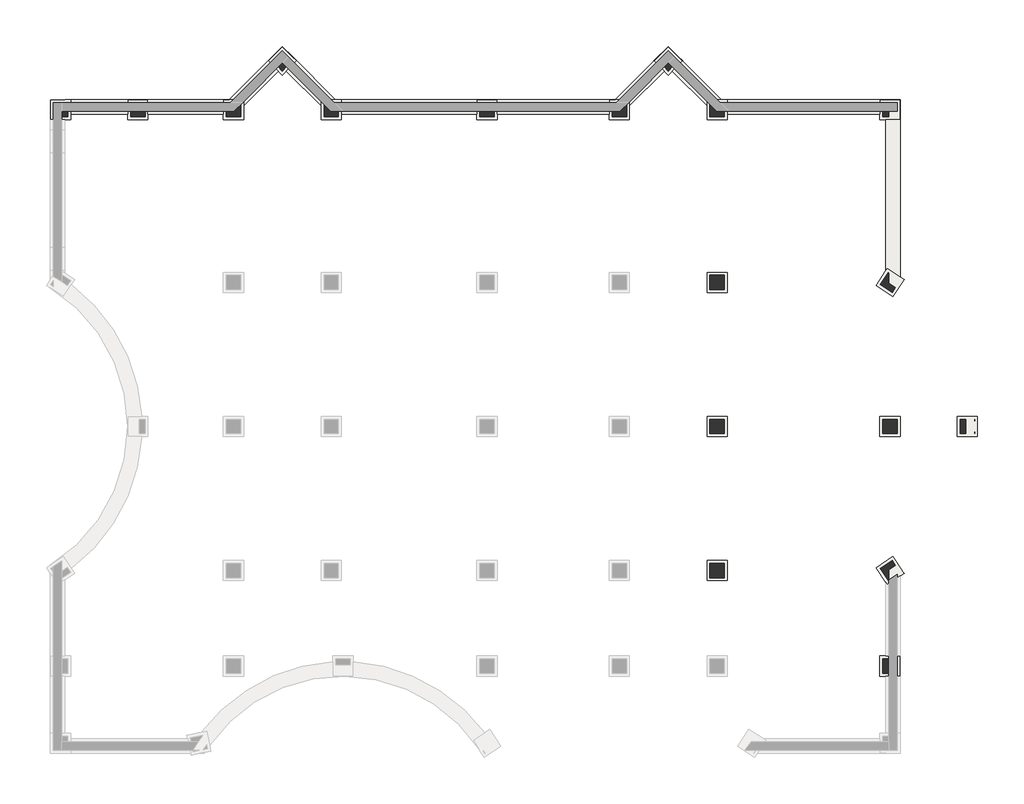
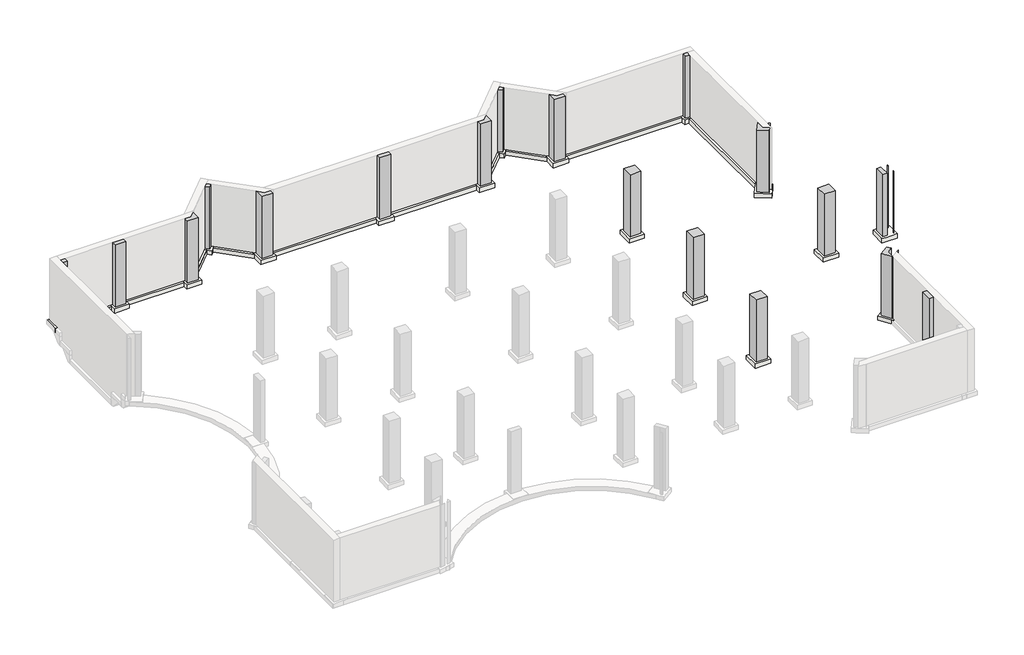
# One storey, part 3 of 3: 18 columns, 18 slabs, 8 footings.
"""IFC4 building model written with IfcOpenShell, lengths in millimetres."""

from ifc_helpers import new_model, si_unit, point, frame, frame_2d, origin, place, context, project, spatial, polyline, circle_curve, trimmed, segment, composite_curve, outline, extrude, faceted_brep, transform, mapped, element, save
from ifc_brep_helpers import plane_surface, cylinder_surface, revolved_surface, advanced_brep
from components import m_concrete_rectangular_column_762_x_762mm_e00174ba, m_footing_rectangular_1067_x_1067_x_305mm_e91fa160

model = new_model("IFC4")

# Units and contexts
model_context = context("Model", 3, world=origin())
ifc_project = project(units=[si_unit("LENGTHUNIT", "METRE", prefix="MILLI")], contexts=[model_context])

# Site, building, storey
site = spatial("IfcSite", under=ifc_project)
building = spatial("IfcBuilding", under=site)
storey = spatial("IfcBuildingStorey", under=building, Name="00 T.O.FOOTING", Elevation=-4572.0)

# Columns
placement = place(None, origin())
element("IfcColumn", 1, ObjectType="M_Concrete-Rectangular-Column : 762 x 762mm", at=placement, inside=storey, context=model_context, shape_type="SweptSolid", body=[
    extrude(outline(polyline([(536.575, 33302.575), (228.5, 33302.575), (228.5, 33610.65), (536.575, 33610.65), (536.575, 33302.575)])), frame((0.0, 0.0, -4572.0), z_axis=(0.0, 0.0, 1.0), x_axis=(1.0, 0.0, 0.0)), (0.0, 0.0, 1.0), 4572.0),
])
element("IfcColumn", 2, ObjectType="M_Concrete-Rectangular-Column : 762 x 762mm", at=placement, inside=storey, context=model_context, shape_type="SweptSolid", body=[
    extrude(outline(polyline([(4625.575, 33302.575), (3863.575, 33302.575), (3863.575, 33610.65), (4625.575, 33610.65), (4625.575, 33302.575)])), frame((0.0, 0.0, -4572.0), z_axis=(0.0, 0.0, 1.0), x_axis=(1.0, 0.0, 0.0)), (0.0, 0.0, 1.0), 4572.0),
])
element("IfcColumn", 3, ObjectType="M_Concrete-Rectangular-Column : 762 x 762mm", at=placement, inside=storey, context=model_context, shape_type="SweptSolid", body=[
    extrude(outline(polyline([(9680.575, 33302.575), (8918.575, 33302.575), (8918.575, 33610.65), (9329.781524, 33610.65), (9680.575, 33961.443476), (9680.575, 33302.575)])), frame((0.0, 0.0, -4572.0), z_axis=(0.0, 0.0, 1.0), x_axis=(1.0, 0.0, 0.0)), (0.0, 0.0, 1.0), 4572.0),
])
element("IfcColumn", 4, ObjectType="M_Concrete-Rectangular-Column : 762 x 762mm", at=placement, inside=storey, context=model_context, shape_type="SweptSolid", body=[
    extrude(outline(polyline([(11885.575, 35730.7596327), (11667.7330784, 35948.6015543), (11885.8887629, 36166.7572388), (12103.7306845, 35948.9153172), (11885.575, 35730.7596327)])), frame((0.0, 0.0, -4572.0), z_axis=(0.0, 0.0, 1.0), x_axis=(1.0, 0.0, 0.0)), (0.0, 0.0, 1.0), 4572.0),
])
element("IfcColumn", 5, ObjectType="M_Concrete-Rectangular-Column : 762 x 762mm", at=placement, inside=storey, context=model_context, shape_type="SweptSolid", body=[
    extrude(outline(polyline([(14852.575, 33302.575), (14090.575, 33302.575), (14090.575, 33962.0710017), (14441.9960017, 33610.65), (14852.575, 33610.65), (14852.575, 33302.575)])), frame((0.0, 0.0, -4572.0), z_axis=(0.0, 0.0, 1.0), x_axis=(1.0, 0.0, 0.0)), (0.0, 0.0, 1.0), 4572.0),
])
element("IfcColumn", 6, ObjectType="M_Concrete-Rectangular-Column : 762 x 762mm", at=placement, inside=storey, context=model_context, shape_type="SweptSolid", body=[
    extrude(outline(polyline([(23091.575, 33302.575), (22329.575, 33302.575), (22329.575, 33610.65), (23091.575, 33610.65), (23091.575, 33302.575)])), frame((0.0, 0.0, -4572.0), z_axis=(0.0, 0.0, 1.0), x_axis=(1.0, 0.0, 0.0)), (0.0, 0.0, 1.0), 4572.0),
])
element("IfcColumn", 7, ObjectType="M_Concrete-Rectangular-Column : 762 x 762mm", at=placement, inside=storey, context=model_context, shape_type="SweptSolid", body=[
    extrude(outline(polyline([(30092.575, 33302.575), (29330.575, 33302.575), (29330.575, 33610.65), (29742.4090498, 33610.65), (30092.575, 33960.8159502), (30092.575, 33302.575)])), frame((0.0, 0.0, -4572.0), z_axis=(0.0, 0.0, 1.0), x_axis=(1.0, 0.0, 0.0)), (0.0, 0.0, 1.0), 4572.0),
])
element("IfcColumn", 8, ObjectType="M_Concrete-Rectangular-Column : 762 x 762mm", at=placement, inside=storey, context=model_context, shape_type="SweptSolid", body=[
    extrude(outline(polyline([(32297.575, 35730.7596327), (32080.0468413, 35948.2877915), (32298.5162886, 36166.7572388), (32516.0444474, 35949.2290801), (32297.575, 35730.7596327)])), frame((0.0, 0.0, -4572.0), z_axis=(0.0, 0.0, 1.0), x_axis=(1.0, 0.0, 0.0)), (0.0, 0.0, 1.0), 4572.0),
])
element("IfcColumn", 9, ObjectType="M_Concrete-Rectangular-Column : 762 x 762mm", at=placement, inside=storey, context=model_context, shape_type="SweptSolid", body=[
    extrude(outline(polyline([(35264.575, 33302.575), (34502.575, 33302.575), (34502.575, 33962.6985274), (34854.6235274, 33610.65), (35264.575, 33610.65), (35264.575, 33302.575)])), frame((0.0, 0.0, -4572.0), z_axis=(0.0, 0.0, 1.0), x_axis=(1.0, 0.0, 0.0)), (0.0, 0.0, 1.0), 4572.0),
])
element("IfcColumn", 10, ObjectType="M_Concrete-Rectangular-Column : 762 x 762mm", at=placement, inside=storey, context=model_context, shape_type="SweptSolid", body=[
    extrude(outline(polyline([(43646.575, 33302.575), (43646.575, 33610.65), (43955.9050515, 33610.65), (43955.9050515, 33302.575), (43646.575, 33302.575)])), frame((0.0, 0.0, -4572.0), z_axis=(0.0, 0.0, 1.0), x_axis=(1.0, 0.0, 0.0)), (0.0, 0.0, 1.0), 4572.0),
])
element("IfcColumn", 11, ObjectType="M_Concrete-Rectangular-Column : 762 x 762mm", at=placement, inside=storey, context=model_context, shape_type="SweptSolid", body=[
    extrude(outline(composite_curve([segment(polyline([(44461.4614075, 24709.0040954), (44555.6684434, 24646.5297336), (44553.539597, 24643.3195798)]), True, "CONTINUOUS"), segment(trimmed(circle_curve(frame_2d((38974.293871, 16919.575)), 9528.075), [point((44553.539597, 24643.3195798))], [point((44461.4614075, 24709.0040954))], True, "CARTESIAN"), True, "CONTINUOUS")], self_intersect=False)), frame((0.0, 0.0, -4572.0), z_axis=(0.0, 0.0, 1.0), x_axis=(1.0, 0.0, 0.0)), (0.0, 0.0, 1.0), 4572.0),
    extrude(outline(composite_curve([segment(polyline([(44134.5297336, 24011.4815566), (43499.4815566, 24432.6202664), (43920.6202664, 25067.6684434), (43955.9050515, 25044.2689764), (43955.9050515, 24500.3369473)]), True, "CONTINUOUS"), segment(trimmed(circle_curve(frame_2d((38974.293871, 16919.575)), 9071.075), [point((43955.9050515, 24500.3369473))], [point((44300.7545376, 24262.1371157))], False, "CARTESIAN"), True, "CONTINUOUS"), segment(polyline([(44300.7545376, 24262.1371157), (44134.5297336, 24011.4815566)]), True, "CONTINUOUS")], self_intersect=False)), frame((0.0, 0.0, -4572.0), z_axis=(0.0, 0.0, 1.0), x_axis=(1.0, 0.0, 0.0)), (0.0, 0.0, 1.0), 4572.0),
])
element("IfcColumn", 12, ObjectType="M_Concrete-Rectangular-Column : 762 x 762mm", at=placement, inside=storey, context=model_context, shape_type="SweptSolid", body=[
    extrude(outline(composite_curve([segment(polyline([(48497.575, 16617.3668878), (48497.575, 16538.575), (48494.7482827, 16538.575)]), True, "CONTINUOUS"), segment(trimmed(circle_curve(frame_2d((38974.293871, 16919.575)), 9528.075), [point((48494.7482827, 16538.575))], [point((48497.575, 16617.3668878))], True, "CARTESIAN"), True, "CONTINUOUS")], self_intersect=False)), frame((0.0, 0.0, -4572.0), z_axis=(0.0, 0.0, 1.0), x_axis=(1.0, 0.0, 0.0)), (0.0, 0.0, 1.0), 4572.0),
    extrude(outline(composite_curve([segment(polyline([(47735.575, 16538.575), (47735.575, 17300.575), (48037.3640271, 17300.575)]), True, "CONTINUOUS"), segment(trimmed(circle_curve(frame_2d((38974.293871, 16919.575)), 9071.075), [point((48037.3640271, 17300.575))], [point((48037.3640271, 16538.575))], False, "CARTESIAN"), True, "CONTINUOUS"), segment(polyline([(48037.3640271, 16538.575), (47735.575, 16538.575)]), True, "CONTINUOUS")], self_intersect=False)), frame((0.0, 0.0, -4572.0), z_axis=(0.0, 0.0, 1.0), x_axis=(1.0, 0.0, 0.0)), (0.0, 0.0, 1.0), 4572.0),
    extrude(outline(composite_curve([segment(polyline([(48494.7482827, 17300.575), (48497.575, 17300.575), (48497.575, 17221.7831122)]), True, "CONTINUOUS"), segment(trimmed(circle_curve(frame_2d((38974.293871, 16919.575)), 9528.075), [point((48497.575, 17221.7831122))], [point((48494.7482827, 17300.575))], True, "CARTESIAN"), True, "CONTINUOUS")], self_intersect=False)), frame((0.0, 0.0, -4572.0), z_axis=(0.0, 0.0, 1.0), x_axis=(1.0, 0.0, 0.0)), (0.0, 0.0, 1.0), 4572.0),
])
element("IfcColumn", 13, ObjectType="M_Concrete-Rectangular-Column : 762 x 762mm", at=placement, inside=storey, context=model_context, shape_type="AdvancedBrep", body=[
    advanced_brep(
    [(44553.539597, 9195.8304202, -4572.0), (44555.6684434, 9192.6202664, -4572.0), (44461.4614075, 9130.1459046, -4572.0), (44555.6684434, 9192.6202664, 0.0), (44553.539597, 9195.8304202, 0.0), (44461.4614075, 9130.1459046, 0.0)],
    [
        (0, 1),
        (1, 2),
        (2, 0, circle_curve(frame((38974.293871, 16919.575, -4572.0), z_axis=(0.0, 0.0, 1.0), x_axis=(1.0, 0.0, 0.0)), 9528.075)),
        (3, 1),
        (0, 4),
        (4, 3),
        (3, 5),
        (5, 2),
        (4, 5, circle_curve(frame((38974.293871, 16919.575, 0.0), z_axis=(0.0, 0.0, -1.0), x_axis=(1.0, 0.0, 0.0)), 9528.075)),
    ],
    [
        plane_surface(frame((43920.6202664, 8771.4815566, -4572.0), z_axis=(0.0, 0.0, -1.0000000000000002), x_axis=(-0.552675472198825, 0.8333965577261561, 0.0))),
        plane_surface(frame((44555.6684434, 9192.6202664, 0.0), z_axis=(0.8333965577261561, 0.552675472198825, 0.0), x_axis=(0.0, 0.0, -1.0))),
        plane_surface(frame((43920.6202664, 8771.4815566, 0.0), z_axis=(0.552675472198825, -0.8333965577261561, 0.0), x_axis=(0.0, 0.0, -1.0))),
        plane_surface(frame((43920.6202664, 8771.4815566, 0.0), z_axis=(0.0, 0.0, 1.0000000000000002), x_axis=(0.552675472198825, -0.8333965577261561, 0.0))),
        revolved_surface(polyline([(48502.368871, 16919.575, 0.0), (48502.368871, 16919.575, -4572.0)]), (38974.293871, 16919.575, -4572.0), (0.0, 0.0, 1.0)),
    ],
    [
        (0, [[1, 2, 3]]),
        (1, [[4, -1, 5, 6]]),
        (2, [[-4, 7, 8, -2]]),
        (3, [[-7, -6, 9]]),
        (4, [[-3, -8, -9, -5]]),
    ],
),
    advanced_brep(
    [(44134.5297336, 9827.6684434, -4572.0), (43499.4815566, 9406.5297336, -4572.0), (43499.4815566, 9406.5297336, 0.0), (44134.5297336, 9827.6684434, 0.0), (43920.6202664, 8771.4815566, 0.0), (43920.6202664, 8771.4815566, -4572.0), (43955.9050515, 8794.8810236, -4572.0), (43955.9050515, 8794.8810236, 0.0), (43955.9050515, 8797.5208724, 0.0), (43955.9050515, 9338.8130527, 0.0), (44300.7545376, 9577.0128843, 0.0), (43955.9050515, 9338.8130527, -4572.0), (44300.7545376, 9577.0128843, -4572.0), (43955.9050515, 8797.5208724, -4572.0)],
    [
        (0, 1),
        (1, 2),
        (2, 3),
        (3, 0),
        (4, 5),
        (5, 6),
        (6, 7),
        (7, 4),
        (1, 5),
        (4, 2),
        (7, 8),
        (8, 9),
        (9, 10, circle_curve(frame((38974.293871, 16919.575, 0.0), z_axis=(0.0, 0.0, 1.0), x_axis=(1.0, 0.0, 0.0)), 9071.075)),
        (10, 3),
        (9, 11),
        (11, 12, circle_curve(frame((38974.293871, 16919.575, -4572.0), z_axis=(0.0, 0.0, 1.0), x_axis=(1.0, 0.0, 0.0)), 9071.075)),
        (12, 10),
        (6, 13),
        (13, 11),
        (0, 12),
    ],
    [
        plane_surface(frame((44134.5297336, 9827.6684434, 0.0), z_axis=(-0.552675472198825, 0.8333965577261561, 0.0), x_axis=(0.0, 0.0, -1.0))),
        plane_surface(frame((43920.6202664, 8771.4815566, 0.0), z_axis=(0.552675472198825, -0.8333965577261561, 0.0), x_axis=(0.0, 0.0, -1.0))),
        plane_surface(frame((43499.4815566, 9406.5297336, 0.0), z_axis=(-0.8333965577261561, -0.552675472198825, 0.0), x_axis=(0.0, 0.0, -1.0))),
        plane_surface(frame((43920.6202664, 8771.4815566, 0.0), z_axis=(0.0, 0.0, 1.0000000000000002), x_axis=(0.552675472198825, -0.8333965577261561, 0.0))),
        cylinder_surface(frame((38974.293871, 16919.575, -4572.0), z_axis=(0.0, 0.0, -1.0), x_axis=(1.0, 0.0, 0.0)), 9071.075),
        plane_surface(frame((43955.9050515, 9216.5342584, -4572.0), z_axis=(1.0, 0.0, 0.0), x_axis=(0.0, -1.0, 0.0))),
        plane_surface(frame((43920.6202664, 8771.4815566, -4572.0), z_axis=(0.0, 0.0, -1.0000000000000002), x_axis=(-0.552675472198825, 0.8333965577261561, 0.0))),
        plane_surface(frame((44555.6684434, 9192.6202664, 0.0), z_axis=(0.8333965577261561, 0.552675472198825, 0.0), x_axis=(0.0, 0.0, -1.0))),
    ],
    [
        (0, [[1, 2, 3, 4]]),
        (1, [[5, 6, 7, 8]]),
        (2, [[9, -5, 10, -2]]),
        (3, [[-3, -10, -8, 11, 12, 13, 14]]),
        (4, [[15, 16, 17, -13]]),
        (5, [[-15, -12, -11, -7, 18, 19]]),
        (6, [[-1, 20, -16, -19, -18, -6, -9]]),
        (7, [[-4, -14, -17, -20]]),
    ],
),
])
element("IfcColumn", 14, ObjectType="M_Concrete-Rectangular-Column : 762 x 762mm", at=placement, inside=storey, context=model_context, shape_type="SweptSolid", body=[
    extrude(outline(polyline([(43646.575, 3863.575), (43646.575, 4625.575), (43955.9050515, 4625.575), (43955.9050515, 3863.575), (43646.575, 3863.575)])), frame((0.0, 0.0, -4572.0), z_axis=(0.0, 0.0, 1.0), x_axis=(1.0, 0.0, 0.0)), (0.0, 0.0, 1.0), 4572.0),
])
m_concrete_rectangular_column_762_x_762mm_shape = m_concrete_rectangular_column_762_x_762mm_e00174ba(model_context)
element("IfcColumn", 15, ObjectType="M_Concrete-Rectangular-Column : 762 x 762mm", at=placement, inside=storey, context=model_context, shape_type="MappedRepresentation", body=[
    mapped(m_concrete_rectangular_column_762_x_762mm_shape, transform((34883.575, 24539.575, 0.0), x_axis=(1.0, 0.0, 0.0), y_axis=(0.0, 1.0, 0.0), z_axis=(0.0, 0.0, 1.0))),
])
element("IfcColumn", 16, ObjectType="M_Concrete-Rectangular-Column : 762 x 762mm", at=placement, inside=storey, context=model_context, shape_type="MappedRepresentation", body=[
    mapped(m_concrete_rectangular_column_762_x_762mm_shape, transform((34883.575, 16919.575, 0.0), x_axis=(1.0, 0.0, 0.0), y_axis=(0.0, 1.0, 0.0), z_axis=(0.0, 0.0, 1.0))),
])
element("IfcColumn", 17, ObjectType="M_Concrete-Rectangular-Column : 762 x 762mm", at=placement, inside=storey, context=model_context, shape_type="MappedRepresentation", body=[
    mapped(m_concrete_rectangular_column_762_x_762mm_shape, transform((34883.575, 9299.575, 0.0), x_axis=(1.0, 0.0, 0.0), y_axis=(0.0, 1.0, 0.0), z_axis=(0.0, 0.0, 1.0))),
])
element("IfcColumn", 18, ObjectType="M_Concrete-Rectangular-Column : 762 x 762mm", at=placement, inside=storey, context=model_context, shape_type="MappedRepresentation", body=[
    mapped(m_concrete_rectangular_column_762_x_762mm_shape, transform((44027.575, 16919.575, 0.0), x_axis=(1.0, 0.0, 0.0), y_axis=(0.0, 1.0, 0.0), z_axis=(0.0, 0.0, 1.0))),
])

# Footings
element("IfcFooting", 19, ObjectType="Bearing Footing - 762 x 305", at=placement, inside=storey, context=model_context, shape_type="SweptSolid", body=[
    extrude(outline(polyline([(381.0, 34220.15), (9077.3183578, 34220.15), (9078.5920645, 34217.075), (8766.075, 34217.075), (8766.075, 33458.15), (4778.075, 33458.15), (4778.075, 34217.075), (3711.075, 34217.075), (3711.075, 33458.15), (689.075, 33458.15), (689.075, 34217.075), (381.0, 34217.075), (381.0, 34220.15)])), frame((0.0, 0.0, -4877.0), z_axis=(0.0, 0.0, 1.0), x_axis=(1.0, 0.0, 0.0)), (0.0, 0.0, 1.0), 305.0),
])
element("IfcFooting", 20, ObjectType="Bearing Footing - 762 x 305", at=placement, inside=storey, context=model_context, shape_type="SweptSolid", body=[
    extrude(outline(polyline([(11885.8887629, 37028.7204051), (12424.7041301, 36489.9050378), (12422.2160139, 36487.4169216), (11885.575, 37024.0579355), (11131.0920645, 36269.575), (11667.7330784, 35732.9339861), (9833.075, 33898.2759077), (9833.075, 34217.075), (9078.5920645, 34217.075), (9077.3183578, 34220.15), (11885.8887629, 37028.7204051)])), frame((0.0, 0.0, -4877.0), z_axis=(0.0, 0.0, 1.0), x_axis=(1.0, 0.0, 0.0)), (0.0, 0.0, 1.0), 305.0),
])
element("IfcFooting", 21, ObjectType="Bearing Footing - 762 x 305", at=placement, inside=storey, context=model_context, shape_type="SweptSolid", body=[
    extrude(outline(polyline([(12424.7041301, 36489.9050378), (14694.459168, 34220.15), (14693.1854613, 34217.075), (13938.075, 34217.075), (13938.075, 33898.9034334), (12103.7306845, 35733.247749), (12640.0579355, 36269.575), (12422.2160139, 36487.4169216), (12424.7041301, 36489.9050378)])), frame((0.0, 0.0, -4877.0), z_axis=(0.0, 0.0, 1.0), x_axis=(1.0, 0.0, 0.0)), (0.0, 0.0, 1.0), 305.0),
])
element("IfcFooting", 22, ObjectType="Bearing Footing - 762 x 305", at=placement, inside=storey, context=model_context, shape_type="SweptSolid", body=[
    extrude(outline(polyline([(14694.459168, 34220.15), (29489.9458835, 34220.15), (29491.2195902, 34217.075), (29178.075, 34217.075), (29178.075, 33458.15), (23244.075, 33458.15), (23244.075, 34217.075), (22177.075, 34217.075), (22177.075, 33458.15), (15005.075, 33458.15), (15005.075, 34217.075), (14693.1854613, 34217.075), (14694.459168, 34220.15)])), frame((0.0, 0.0, -4877.0), z_axis=(0.0, 0.0, 1.0), x_axis=(1.0, 0.0, 0.0)), (0.0, 0.0, 1.0), 305.0),
])
element("IfcFooting", 23, ObjectType="Bearing Footing - 762 x 305", at=placement, inside=storey, context=model_context, shape_type="SweptSolid", body=[
    extrude(outline(polyline([(32298.5162886, 37028.7204051), (32837.3316559, 36489.9050378), (32834.5297768, 36487.1031587), (32297.575, 37024.0579355), (31543.0920645, 36269.575), (32080.0468413, 35732.6202232), (30245.075, 33897.648382), (30245.075, 34217.075), (29491.2195902, 34217.075), (29489.9458835, 34220.15), (32298.5162886, 37028.7204051)])), frame((0.0, 0.0, -4877.0), z_axis=(0.0, 0.0, 1.0), x_axis=(1.0, 0.0, 0.0)), (0.0, 0.0, 1.0), 305.0),
])
element("IfcFooting", 24, ObjectType="Bearing Footing - 762 x 305", at=placement, inside=storey, context=model_context, shape_type="SweptSolid", body=[
    extrude(outline(polyline([(32837.3316559, 36489.9050378), (35107.0866937, 34220.15), (35105.812987, 34217.075), (34350.075, 34217.075), (34350.075, 33899.5309592), (32516.0444474, 35733.5615118), (33052.0579355, 36269.575), (32834.5297768, 36487.1031587), (32837.3316559, 36489.9050378)])), frame((0.0, 0.0, -4877.0), z_axis=(0.0, 0.0, 1.0), x_axis=(1.0, 0.0, 0.0)), (0.0, 0.0, 1.0), 305.0),
])
element("IfcFooting", 25, ObjectType="Bearing Footing - 762 x 305", at=placement, inside=storey, context=model_context, shape_type="SweptSolid", body=[
    extrude(outline(polyline([(44565.4050515, 34220.15), (44565.4050515, 33458.15), (44561.075, 33458.15), (44561.075, 34217.075), (43494.075, 34217.075), (43494.075, 33458.15), (35417.075, 33458.15), (35417.075, 34217.075), (35105.812987, 34217.075), (35107.0866937, 34220.15), (44565.4050515, 34220.15)])), frame((0.0, 0.0, -4877.0), z_axis=(0.0, 0.0, 1.0), x_axis=(1.0, 0.0, 0.0)), (0.0, 0.0, 1.0), 305.0),
])
element("IfcFooting", 26, ObjectType="Bearing Footing - 762 x 305", at=placement, inside=storey, context=model_context, shape_type="SweptSolid", body=[
    extrude(outline(polyline([(44561.075, 33458.15), (44565.4050515, 33458.15), (44565.4050515, 24823.0589191), (43877.8103009, 25279.044428), (43803.4050515, 25166.846435), (43803.4050515, 33150.075), (44561.075, 33150.075), (44561.075, 33458.15)])), frame((0.0, 0.0, -4877.0), z_axis=(0.0, 0.0, 1.0), x_axis=(1.0, 0.0, 0.0)), (0.0, 0.0, 1.0), 305.0),
])

# Slabs
element("IfcSlab", 27, ObjectType="M_Footing-Rectangular : 1067 x 1067 x 305mm", at=placement, inside=storey, context=model_context, shape_type="Brep", body=[
    faceted_brep([(-377.925, 34217.075, -4572.0), (-377.925, 33150.075, -4572.0), (381.0, 33150.075, -4572.0), (689.075, 33150.075, -4572.0), (689.075, 33458.15, -4572.0), (689.075, 34217.075, -4572.0), (381.0, 34217.075, -4572.0), (-377.925, 34217.075, -4877.0), (381.0, 34217.075, -4877.0), (689.075, 34217.075, -4877.0), (689.075, 33458.15, -4877.0), (689.075, 33150.075, -4877.0), (381.0, 33150.075, -4877.0), (-377.925, 33150.075, -4877.0)], [[[0, 1, 2, 3, 4, 5, 6]], [[7, 8, 9, 10, 11, 12, 13]], [[1, 0, 7, 13]], [[3, 2, 1, 13, 12, 11]], [[5, 4, 3, 11, 10, 9]], [[0, 6, 5, 9, 8, 7]]]),
])
element("IfcSlab", 28, ObjectType="M_Footing-Rectangular : 1067 x 1067 x 305mm", at=placement, inside=storey, context=model_context, shape_type="Brep", body=[
    faceted_brep([(3711.075, 34217.075, -4572.0), (3711.075, 33458.15, -4572.0), (3711.075, 33150.075, -4572.0), (4778.075, 33150.075, -4572.0), (4778.075, 33458.15, -4572.0), (4778.075, 34217.075, -4572.0), (3711.075, 34217.075, -4877.0), (4778.075, 34217.075, -4877.0), (4778.075, 33458.15, -4877.0), (4778.075, 33150.075, -4877.0), (3711.075, 33150.075, -4877.0), (3711.075, 33458.15, -4877.0)], [[[0, 1, 2, 3, 4, 5]], [[6, 7, 8, 9, 10, 11]], [[2, 1, 0, 6, 11, 10]], [[3, 2, 10, 9]], [[5, 4, 3, 9, 8, 7]], [[0, 5, 7, 6]]]),
])
element("IfcSlab", 29, ObjectType="M_Footing-Rectangular : 1067 x 1067 x 305mm", at=placement, inside=storey, context=model_context, shape_type="Brep", body=[
    faceted_brep([(8766.075, 34217.075, -4572.0), (8766.075, 33458.15, -4572.0), (8766.075, 33150.075, -4572.0), (9833.075, 33150.075, -4572.0), (9833.075, 33898.2759077, -4572.0), (9833.075, 34217.075, -4572.0), (9078.5920645, 34217.075, -4572.0), (8766.075, 34217.075, -4877.0), (9078.5920645, 34217.075, -4877.0), (9833.075, 34217.075, -4877.0), (9833.075, 33898.2759077, -4877.0), (9833.075, 33150.075, -4877.0), (8766.075, 33150.075, -4877.0), (8766.075, 33458.15, -4877.0)], [[[0, 1, 2, 3, 4, 5, 6]], [[7, 8, 9, 10, 11, 12, 13]], [[2, 1, 0, 7, 13, 12]], [[3, 2, 12, 11]], [[5, 4, 3, 11, 10, 9]], [[0, 6, 5, 9, 8, 7]]]),
])
element("IfcSlab", 30, ObjectType="M_Footing-Rectangular : 1067 x 1067 x 305mm", at=placement, inside=storey, context=model_context, shape_type="Brep", body=[
    faceted_brep([(11885.575, 37024.0579355, -4572.0), (11131.0920645, 36269.575, -4572.0), (11667.7330784, 35732.9339861, -4572.0), (11885.575, 35515.0920645, -4572.0), (12103.7306845, 35733.247749, -4572.0), (12640.0579355, 36269.575, -4572.0), (12422.2160139, 36487.4169216, -4572.0), (11885.575, 37024.0579355, -4877.0), (12422.2160139, 36487.4169216, -4877.0), (12640.0579355, 36269.575, -4877.0), (12103.7306845, 35733.247749, -4877.0), (11885.575, 35515.0920645, -4877.0), (11667.7330784, 35732.9339861, -4877.0), (11131.0920645, 36269.575, -4877.0)], [[[0, 1, 2, 3, 4, 5, 6]], [[7, 8, 9, 10, 11, 12, 13]], [[1, 0, 7, 13]], [[3, 2, 1, 13, 12, 11]], [[5, 4, 3, 11, 10, 9]], [[0, 6, 5, 9, 8, 7]]]),
])
element("IfcSlab", 31, ObjectType="M_Footing-Rectangular : 1067 x 1067 x 305mm", at=placement, inside=storey, context=model_context, shape_type="Brep", body=[
    faceted_brep([(13938.075, 34217.075, -4572.0), (13938.075, 33898.9034334, -4572.0), (13938.075, 33150.075, -4572.0), (15005.075, 33150.075, -4572.0), (15005.075, 33458.15, -4572.0), (15005.075, 34217.075, -4572.0), (14693.1854613, 34217.075, -4572.0), (13938.075, 34217.075, -4877.0), (14693.1854613, 34217.075, -4877.0), (15005.075, 34217.075, -4877.0), (15005.075, 33458.15, -4877.0), (15005.075, 33150.075, -4877.0), (13938.075, 33150.075, -4877.0), (13938.075, 33898.9034334, -4877.0)], [[[0, 1, 2, 3, 4, 5, 6]], [[7, 8, 9, 10, 11, 12, 13]], [[2, 1, 0, 7, 13, 12]], [[3, 2, 12, 11]], [[5, 4, 3, 11, 10, 9]], [[0, 6, 5, 9, 8, 7]]]),
])
element("IfcSlab", 32, ObjectType="M_Footing-Rectangular : 1067 x 1067 x 305mm", at=placement, inside=storey, context=model_context, shape_type="Brep", body=[
    faceted_brep([(22177.075, 34217.075, -4572.0), (22177.075, 33458.15, -4572.0), (22177.075, 33150.075, -4572.0), (23244.075, 33150.075, -4572.0), (23244.075, 33458.15, -4572.0), (23244.075, 34217.075, -4572.0), (22177.075, 34217.075, -4877.0), (23244.075, 34217.075, -4877.0), (23244.075, 33458.15, -4877.0), (23244.075, 33150.075, -4877.0), (22177.075, 33150.075, -4877.0), (22177.075, 33458.15, -4877.0)], [[[0, 1, 2, 3, 4, 5]], [[6, 7, 8, 9, 10, 11]], [[2, 1, 0, 6, 11, 10]], [[3, 2, 10, 9]], [[5, 4, 3, 9, 8, 7]], [[0, 5, 7, 6]]]),
])
element("IfcSlab", 33, ObjectType="M_Footing-Rectangular : 1067 x 1067 x 305mm", at=placement, inside=storey, context=model_context, shape_type="Brep", body=[
    faceted_brep([(29178.075, 34217.075, -4572.0), (29178.075, 33458.15, -4572.0), (29178.075, 33150.075, -4572.0), (30245.075, 33150.075, -4572.0), (30245.075, 33897.648382, -4572.0), (30245.075, 34217.075, -4572.0), (29491.2195902, 34217.075, -4572.0), (29178.075, 34217.075, -4877.0), (29491.2195902, 34217.075, -4877.0), (30245.075, 34217.075, -4877.0), (30245.075, 33897.648382, -4877.0), (30245.075, 33150.075, -4877.0), (29178.075, 33150.075, -4877.0), (29178.075, 33458.15, -4877.0)], [[[0, 1, 2, 3, 4, 5, 6]], [[7, 8, 9, 10, 11, 12, 13]], [[2, 1, 0, 7, 13, 12]], [[3, 2, 12, 11]], [[5, 4, 3, 11, 10, 9]], [[0, 6, 5, 9, 8, 7]]]),
])
element("IfcSlab", 34, ObjectType="M_Footing-Rectangular : 1067 x 1067 x 305mm", at=placement, inside=storey, context=model_context, shape_type="Brep", body=[
    faceted_brep([(31543.0920645, 36269.575, -4572.0), (32080.0468413, 35732.6202232, -4572.0), (32297.575, 35515.0920645, -4572.0), (32516.0444474, 35733.5615118, -4572.0), (33052.0579355, 36269.575, -4572.0), (32834.5297768, 36487.1031587, -4572.0), (32297.575, 37024.0579355, -4572.0), (31543.0920645, 36269.575, -4877.0), (32297.575, 37024.0579355, -4877.0), (32834.5297768, 36487.1031587, -4877.0), (33052.0579355, 36269.575, -4877.0), (32516.0444474, 35733.5615118, -4877.0), (32297.575, 35515.0920645, -4877.0), (32080.0468413, 35732.6202232, -4877.0)], [[[0, 1, 2, 3, 4, 5, 6]], [[7, 8, 9, 10, 11, 12, 13]], [[2, 1, 0, 7, 13, 12]], [[4, 3, 2, 12, 11, 10]], [[6, 5, 4, 10, 9, 8]], [[0, 6, 8, 7]]]),
])
element("IfcSlab", 35, ObjectType="M_Footing-Rectangular : 1067 x 1067 x 305mm", at=placement, inside=storey, context=model_context, shape_type="Brep", body=[
    faceted_brep([(34350.075, 33150.075, -4572.0), (35417.075, 33150.075, -4572.0), (35417.075, 33458.15, -4572.0), (35417.075, 34217.075, -4572.0), (35105.812987, 34217.075, -4572.0), (34350.075, 34217.075, -4572.0), (34350.075, 33899.5309592, -4572.0), (34350.075, 33150.075, -4877.0), (34350.075, 33899.5309592, -4877.0), (34350.075, 34217.075, -4877.0), (35105.812987, 34217.075, -4877.0), (35417.075, 34217.075, -4877.0), (35417.075, 33458.15, -4877.0), (35417.075, 33150.075, -4877.0)], [[[0, 1, 2, 3, 4, 5, 6]], [[7, 8, 9, 10, 11, 12, 13]], [[1, 0, 7, 13]], [[3, 2, 1, 13, 12, 11]], [[5, 4, 3, 11, 10, 9]], [[0, 6, 5, 9, 8, 7]]]),
])
element("IfcSlab", 36, ObjectType="M_Footing-Rectangular : 1067 x 1067 x 305mm", at=placement, inside=storey, context=model_context, shape_type="Brep", body=[
    faceted_brep([(43494.075, 33150.075, -4572.0), (43803.4050515, 33150.075, -4572.0), (44561.075, 33150.075, -4572.0), (44561.075, 33458.15, -4572.0), (44561.075, 34217.075, -4572.0), (43494.075, 34217.075, -4572.0), (43494.075, 33458.15, -4572.0), (43494.075, 33150.075, -4877.0), (43494.075, 33458.15, -4877.0), (43494.075, 34217.075, -4877.0), (44561.075, 34217.075, -4877.0), (44561.075, 33458.15, -4877.0), (44561.075, 33150.075, -4877.0), (43803.4050515, 33150.075, -4877.0)], [[[0, 1, 2, 3, 4, 5, 6]], [[7, 8, 9, 10, 11, 12, 13]], [[2, 1, 0, 7, 13, 12]], [[4, 3, 2, 12, 11, 10]], [[5, 4, 10, 9]], [[0, 6, 5, 9, 8, 7]]]),
])
element("IfcSlab", 37, ObjectType="M_Footing-Rectangular : 1067 x 1067 x 305mm", at=placement, inside=storey, context=model_context, shape_type="Brep", body=[
    faceted_brep([(44177.3396991, 23800.105572, -4572.0), (44339.1617978, 24044.1221546, -4572.0), (44760.996405, 24680.219697, -4572.0), (44767.044428, 24689.3396991, -4572.0), (44565.4050515, 24823.0589191, -4572.0), (43877.8103009, 25279.044428, -4572.0), (43803.4050515, 25166.846435, -4572.0), (43288.105572, 24389.8103009, -4572.0), (44177.3396991, 23800.105572, -4877.0), (43288.105572, 24389.8103009, -4877.0), (43803.4050515, 25166.846435, -4877.0), (43877.8103009, 25279.044428, -4877.0), (44565.4050515, 24823.0589191, -4877.0), (44767.044428, 24689.3396991, -4877.0), (44760.996405, 24680.219697, -4877.0), (44339.1617978, 24044.1221546, -4877.0)], [[[0, 1, 2, 3, 4, 5, 6, 7]], [[8, 9, 10, 11, 12, 13, 14, 15]], [[3, 2, 1, 0, 8, 15, 14, 13]], [[5, 4, 3, 13, 12, 11]], [[7, 6, 5, 11, 10, 9]], [[0, 7, 9, 8]]]),
])
element("IfcSlab", 38, ObjectType="M_Footing-Rectangular : 1067 x 1067 x 305mm", at=placement, inside=storey, context=model_context, shape_type="Brep", body=[
    faceted_brep([(47583.075, 16386.075, -4572.0), (47876.8978597, 16386.075, -4572.0), (48640.1570027, 16386.075, -4572.0), (48650.075, 16386.075, -4572.0), (48650.075, 16614.9574139, -4572.0), (48650.075, 17224.1925861, -4572.0), (48650.075, 17453.075, -4572.0), (48640.1570027, 17453.075, -4572.0), (47876.8978597, 17453.075, -4572.0), (47583.075, 17453.075, -4572.0), (47583.075, 16386.075, -4877.0), (47583.075, 17453.075, -4877.0), (47876.8978597, 17453.075, -4877.0), (48640.1570027, 17453.075, -4877.0), (48650.075, 17453.075, -4877.0), (48650.075, 17224.1925861, -4877.0), (48650.075, 16614.9574139, -4877.0), (48650.075, 16386.075, -4877.0), (48640.1570027, 16386.075, -4877.0), (47876.8978597, 16386.075, -4877.0)], [[[0, 1, 2, 3, 4, 5, 6, 7, 8, 9]], [[10, 11, 12, 13, 14, 15, 16, 17, 18, 19]], [[3, 2, 1, 0, 10, 19, 18, 17]], [[6, 5, 4, 3, 17, 16, 15, 14]], [[9, 8, 7, 6, 14, 13, 12, 11]], [[0, 9, 11, 10]]]),
])
element("IfcSlab", 39, ObjectType="M_Footing-Rectangular : 1067 x 1067 x 305mm", at=placement, inside=storey, context=model_context, shape_type="Brep", body=[
    faceted_brep([(43288.105572, 9449.3396991, -4572.0), (43803.4050515, 8672.303565, -4572.0), (43877.8103009, 8560.105572, -4572.0), (44565.4050515, 9016.0910809, -4572.0), (44767.044428, 9149.8103009, -4572.0), (44760.996405, 9158.930303, -4572.0), (44339.1617978, 9795.0278454, -4572.0), (44177.3396991, 10039.044428, -4572.0), (43288.105572, 9449.3396991, -4877.0), (44177.3396991, 10039.044428, -4877.0), (44339.1617978, 9795.0278454, -4877.0), (44760.996405, 9158.930303, -4877.0), (44767.044428, 9149.8103009, -4877.0), (44565.4050515, 9016.0910809, -4877.0), (43877.8103009, 8560.105572, -4877.0), (43803.4050515, 8672.303565, -4877.0)], [[[0, 1, 2, 3, 4, 5, 6, 7]], [[8, 9, 10, 11, 12, 13, 14, 15]], [[2, 1, 0, 8, 15, 14]], [[4, 3, 2, 14, 13, 12]], [[7, 6, 5, 4, 12, 11, 10, 9]], [[0, 7, 9, 8]]]),
])
element("IfcSlab", 40, ObjectType="M_Footing-Rectangular : 1067 x 1067 x 305mm", at=placement, inside=storey, context=model_context, shape_type="Brep", body=[
    faceted_brep([(43494.075, 3711.075, -4572.0), (43803.4050515, 3711.075, -4572.0), (44561.075, 3711.075, -4572.0), (44561.075, 4778.075, -4572.0), (43803.4050515, 4778.075, -4572.0), (43494.075, 4778.075, -4572.0), (43494.075, 3711.075, -4877.0), (43494.075, 4778.075, -4877.0), (43803.4050515, 4778.075, -4877.0), (44561.075, 4778.075, -4877.0), (44561.075, 3711.075, -4877.0), (43803.4050515, 3711.075, -4877.0)], [[[0, 1, 2, 3, 4, 5]], [[6, 7, 8, 9, 10, 11]], [[2, 1, 0, 6, 11, 10]], [[3, 2, 10, 9]], [[5, 4, 3, 9, 8, 7]], [[0, 5, 7, 6]]]),
])
m_footing_rectangular_1067_x_1067_x_305mm_shape = m_footing_rectangular_1067_x_1067_x_305mm_e91fa160(model_context)
element("IfcSlab", 41, ObjectType="M_Footing-Rectangular : 1067 x 1067 x 305mm", at=placement, inside=storey, context=model_context, shape_type="MappedRepresentation", body=[
    mapped(m_footing_rectangular_1067_x_1067_x_305mm_shape, transform((34883.575, 24539.575, -4572.0), x_axis=(1.0, 0.0, 0.0), y_axis=(0.0, 1.0, 0.0), z_axis=(0.0, 0.0, 1.0))),
])
element("IfcSlab", 42, ObjectType="M_Footing-Rectangular : 1067 x 1067 x 305mm", at=placement, inside=storey, context=model_context, shape_type="MappedRepresentation", body=[
    mapped(m_footing_rectangular_1067_x_1067_x_305mm_shape, transform((34883.575, 16919.575, -4572.0), x_axis=(1.0, 0.0, 0.0), y_axis=(0.0, 1.0, 0.0), z_axis=(0.0, 0.0, 1.0))),
])
element("IfcSlab", 43, ObjectType="M_Footing-Rectangular : 1067 x 1067 x 305mm", at=placement, inside=storey, context=model_context, shape_type="MappedRepresentation", body=[
    mapped(m_footing_rectangular_1067_x_1067_x_305mm_shape, transform((34883.575, 9299.575, -4572.0), x_axis=(1.0, 0.0, 0.0), y_axis=(0.0, 1.0, 0.0), z_axis=(0.0, 0.0, 1.0))),
])
element("IfcSlab", 44, ObjectType="M_Footing-Rectangular : 1067 x 1067 x 305mm", at=placement, inside=storey, context=model_context, shape_type="MappedRepresentation", body=[
    mapped(m_footing_rectangular_1067_x_1067_x_305mm_shape, transform((44027.575, 16919.575, -4572.0), x_axis=(1.0, 0.0, 0.0), y_axis=(0.0, 1.0, 0.0), z_axis=(0.0, 0.0, 1.0))),
])

save(model, "model.ifc")
